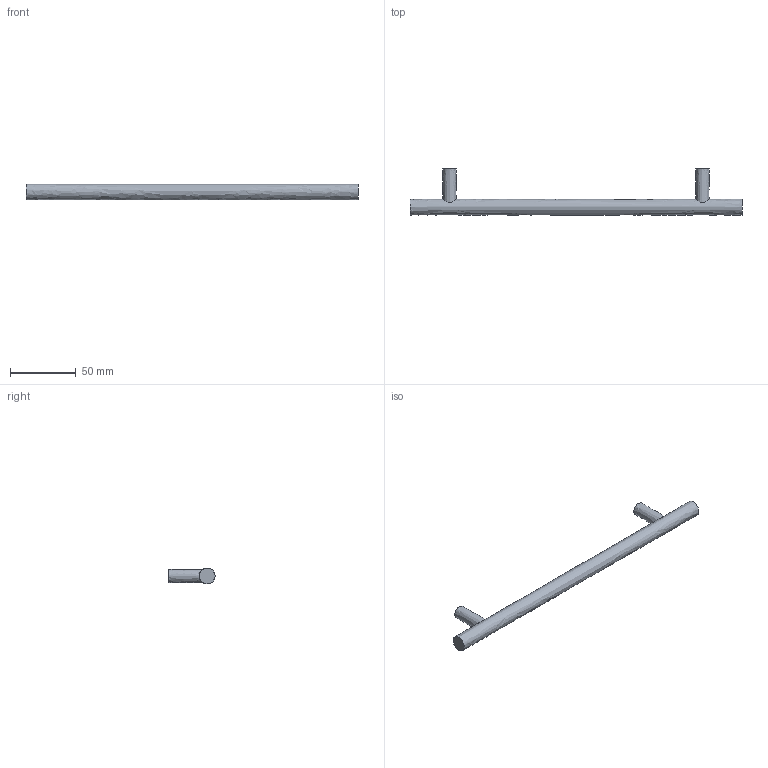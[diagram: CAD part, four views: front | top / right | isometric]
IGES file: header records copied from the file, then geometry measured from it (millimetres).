
Start section: Data from Parasolid IGES Translator 15.0.47, Copyright(c) 2006 Siemens P LM Software. All Rights Reserved.
Global section: file name: 9071009.igs; native system:  By UGS Corp.; preprocessor: XPlus GENERIC/IGES 3.0; author: Noname; organization: Noname; date: 20140122.181305; units: millimetre
Bounding box: 252 x 35 x 12 mm (x, y, z)
Surface area: 11531.7 mm2 (no closed solid volume)
Topology: 0 solids, 0 shells, 11 faces, 30 edges, 22 vertices
Faces by surface type: extrusion 6, revolution 5
